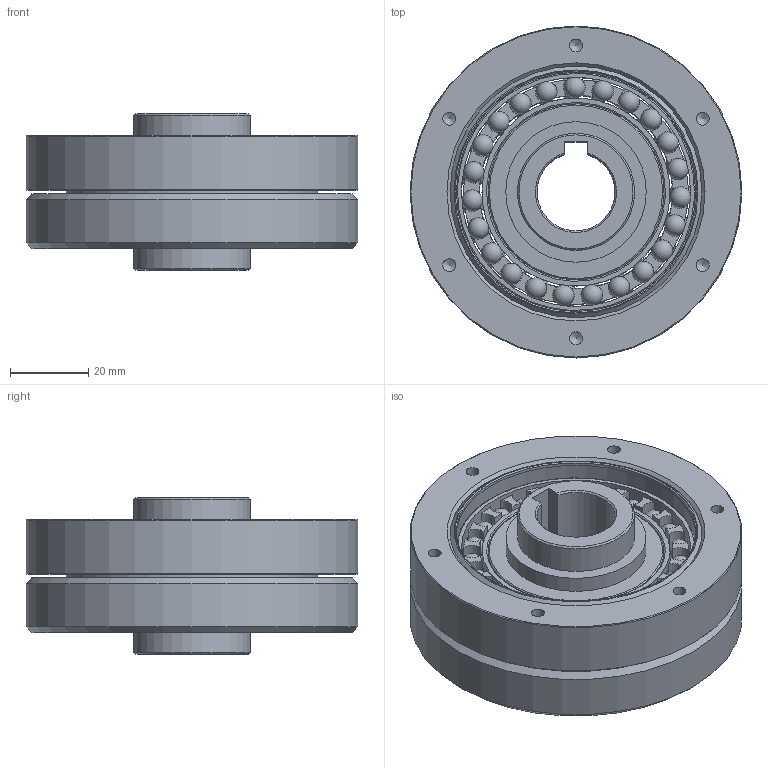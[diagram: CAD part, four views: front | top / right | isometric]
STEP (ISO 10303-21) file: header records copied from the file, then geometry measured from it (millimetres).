
FILE_DESCRIPTION (( 'STEP AP203' ), '1' );
FILE_NAME ('FDS-25-XXX-CJ.STEP', '2024-11-15T01:33:49', ( '微软用户' ), ( '微软中国' ), 'SwSTEP 2.0', 'SolidWorks 2016', '' );
FILE_SCHEMA (( 'CONFIG_CONTROL_DESIGN' ));
Length unit declared in the file: millimetre
Products named in the file (1): FDS-25-XXX-CJ
Bounding box: 85 x 85 x 40 mm (x, y, z)
Volume: 122440.7 mm3; surface area: 69899.4 mm2
Topology: 58 solids, 58 shells, 345 faces, 922 edges, 603 vertices
Faces by surface type: cylinder 138, plane 117, sphere 46, cone 30, torus 14
Full cylindrical faces by diameter (mm): 3.3 x12, 30 x2, 36 x2, 45.21 x1, 45.212 x2, 48.184 x4, 49.5 x2, 57.5 x2, 58.721 x4, 61.34 x1, 61.341 x2, 64.5 x3, 85 x2
Entity records: 9253 total; most frequent: DIRECTION 1840, CARTESIAN_POINT 1518, ORIENTED_EDGE 1352, AXIS2_PLACEMENT_3D 822, EDGE_CURVE 676, VERTEX_POINT 484, CIRCLE 476, EDGE_LOOP 402
